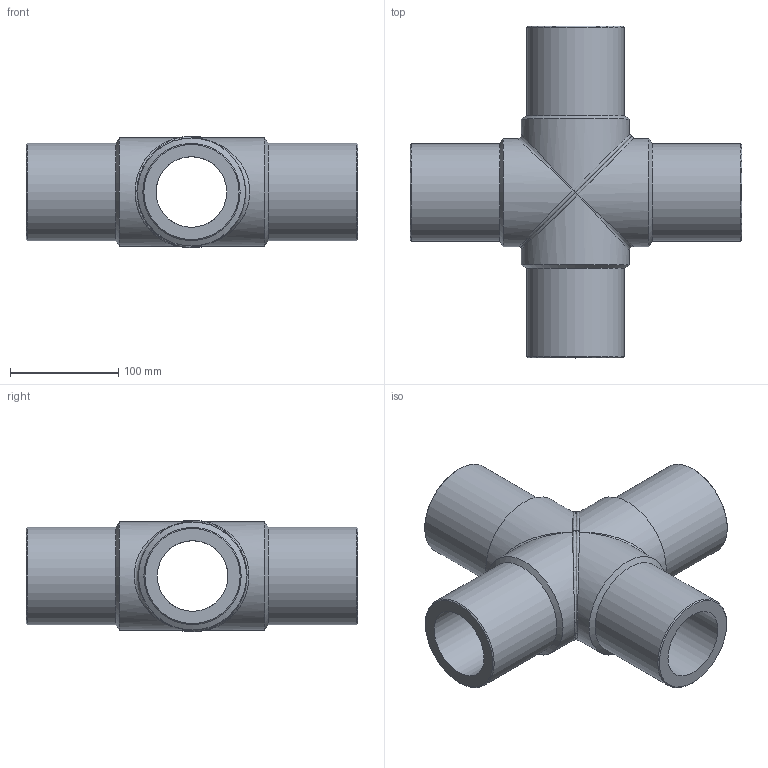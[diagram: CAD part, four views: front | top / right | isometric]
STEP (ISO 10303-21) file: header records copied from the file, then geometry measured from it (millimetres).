
FILE_DESCRIPTION(/* description */ ('Unknown'),/* implementation_level */ '2;1');
FILE_NAME(/* name */ 'CRP090H',/* time_stamp */ '2022-07-08T12:45:01+02:00',/* author */ ('Unknown'),/* organization */ ('Unknown'),/* preprocessor_version */ 'ST-DEVELOPER v18.102',/* originating_system */ 'Solid Edge',/* authorisation */ 'Unknown');
FILE_SCHEMA (('AUTOMOTIVE_DESIGN {1 0 10303 214 3 1 1}'));
Length unit declared in the file: millimetre
Products named in the file (3): CRP090H; CRP090H_mir
Assembly tree (2 placements, depth 2):
  CRP090H
    CRP090H
    CRP090H_mir
Bounding box: 307 x 307 x 102.99 mm (x, y, z)
Volume: 1776525.4 mm3; surface area: 279375.2 mm2
Topology: 2 solids, 2 shells, 34 faces, 96 edges, 64 vertices
Faces by surface type: cylinder 12, bspline 8, cone 8, plane 6
Full cylindrical faces by diameter (mm): 65.4 x4, 90 x4, 100 x4
Entity records: 3353 total; most frequent: CARTESIAN_POINT 2585, ORIENTED_EDGE 132, DIRECTION 130, EDGE_CURVE 66, AXIS2_PLACEMENT_3D 65, EDGE_LOOP 60, FACE_BOUND 60, VERTEX_POINT 54
